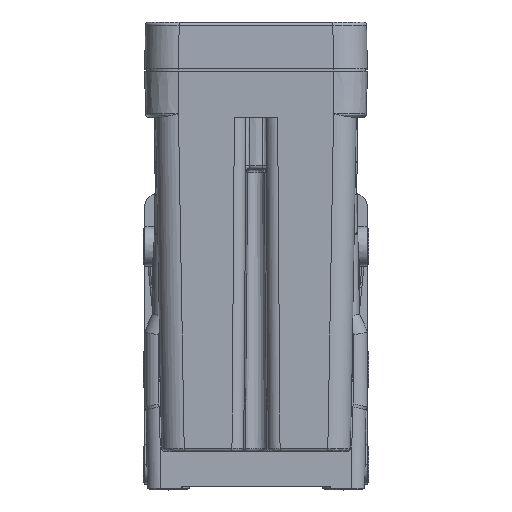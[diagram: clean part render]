
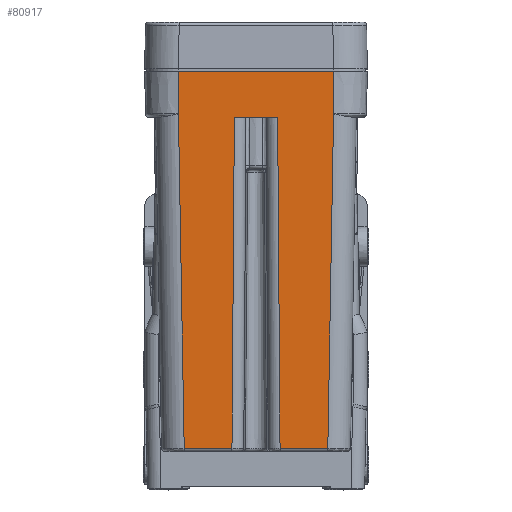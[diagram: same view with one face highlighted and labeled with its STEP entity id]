
A CAD part, top view. The second image highlights one B-rep face of the part: STEP entity #80917.
In plain terms, the highlighted planar face has unit normal (0, -0.018, 1).
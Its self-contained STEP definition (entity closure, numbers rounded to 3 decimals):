
#4391=DIRECTION('',(1.,0.,0.));
#4392=VECTOR('',#4391,6.418);
#4393=CARTESIAN_POINT('',(-3.209,37.4,30.881));
#4394=LINE('',#4393,#4392);
#4444=DIRECTION('',(-1.,0.,0.));
#4445=VECTOR('',#4444,7.08);
#4446=CARTESIAN_POINT('',(10.644,-11.659,30.025));
#4447=LINE('',#4446,#4445);
#4448=DIRECTION('',(-0.007,1.,0.017));
#4449=VECTOR('',#4448,49.067);
#4450=CARTESIAN_POINT('',(3.564,-11.659,30.025));
#4451=LINE('',#4450,#4449);
#4452=DIRECTION('',(-0.007,-1.,-0.017));
#4453=VECTOR('',#4452,49.067);
#4454=CARTESIAN_POINT('',(-3.209,37.4,30.881));
#4455=LINE('',#4454,#4453);
#4456=DIRECTION('',(-1.,0.,0.));
#4457=VECTOR('',#4456,7.08);
#4458=CARTESIAN_POINT('',(-3.564,-11.659,
30.025));
#4459=LINE('',#4458,#4457);
#4460=DIRECTION('',(0.001,1.,0.017));
#4461=VECTOR('',#4460,6.31);
#4462=CARTESIAN_POINT('',(-11.505,37.891,30.89));
#4463=LINE('',#4462,#4461);
#4469=DIRECTION('',(-0.001,1.,0.017));
#4470=VECTOR('',#4469,6.31);
#4471=CARTESIAN_POINT('',(11.505,37.891,30.89));
#4472=LINE('',#4471,#4470);
#4667=DIRECTION('',(0.017,1.,0.017));
#4668=VECTOR('',#4667,49.565);
#4669=CARTESIAN_POINT('',(10.644,-11.659,30.025));
#4670=LINE('',#4669,#4668);
#4696=CARTESIAN_POINT('',(10.644,-11.659,30.025));
#6344=DIRECTION('',(1.,0.,0.));
#6345=VECTOR('',#6344,23.);
#6346=CARTESIAN_POINT('',(-11.5,44.2,31.));
#6347=LINE('',#6346,#6345);
#6635=DIRECTION('',(0.017,-1.,-0.017));
#6636=VECTOR('',#6635,49.565);
#6637=CARTESIAN_POINT('',(-11.505,37.891,30.89));
#6638=LINE('',#6637,#6636);
#71154=CARTESIAN_POINT('',(-11.5,44.2,31.));
#71156=VERTEX_POINT('',#71154);
#71157=CARTESIAN_POINT('',(11.5,44.2,31.));
#71159=VERTEX_POINT('',#71157);
#71405=CARTESIAN_POINT('',(-11.5,37.891,30.89));
#71407=VERTEX_POINT('',#71405);
#71420=CARTESIAN_POINT('',(11.5,37.891,30.89));
#71422=VERTEX_POINT('',#71420);
#71467=CARTESIAN_POINT('',(-3.564,-11.659,
30.025));
#71468=CARTESIAN_POINT('',(-10.644,-11.659,
30.025));
#71469=VERTEX_POINT('',#71467);
#71470=VERTEX_POINT('',#71468);
#71476=VERTEX_POINT('',#4696);
#71479=CARTESIAN_POINT('',(3.564,-11.659,
30.025));
#71480=VERTEX_POINT('',#71479);
#71481=CARTESIAN_POINT('',(-3.209,37.4,30.881));
#71482=CARTESIAN_POINT('',(3.209,37.4,30.881));
#71483=VERTEX_POINT('',#71481);
#71484=VERTEX_POINT('',#71482);
#80894=CARTESIAN_POINT('',(-14.975,44.2,31.));
#80895=DIRECTION('',(0.,-0.017,1.));
#80896=DIRECTION('',(1.,0.,0.));
#80897=AXIS2_PLACEMENT_3D('',#80894,#80895,#80896);
#80898=PLANE('',#80897);
#80900=ORIENTED_EDGE('',*,*,#80899,.F.);
#80902=ORIENTED_EDGE('',*,*,#80901,.F.);
#80903=ORIENTED_EDGE('',*,*,#80562,.T.);
#80905=ORIENTED_EDGE('',*,*,#80904,.T.);
#80906=ORIENTED_EDGE('',*,*,#80797,.F.);
#80907=ORIENTED_EDGE('',*,*,#80813,.T.);
#80908=ORIENTED_EDGE('',*,*,#80885,.T.);
#80910=ORIENTED_EDGE('',*,*,#80909,.F.);
#80912=ORIENTED_EDGE('',*,*,#80911,.T.);
#80914=ORIENTED_EDGE('',*,*,#80913,.T.);
#80915=EDGE_LOOP('',(#80900,#80902,#80903,#80905,#80906,#80907,#80908,#80910,
#80912,#80914));
#80916=FACE_OUTER_BOUND('',#80915,.F.);
#80562=EDGE_CURVE('',#71476,#71480,#4447,.T.);
#80797=EDGE_CURVE('',#71483,#71484,#4394,.T.);
#80813=EDGE_CURVE('',#71483,#71469,#4455,.T.);
#80885=EDGE_CURVE('',#71469,#71470,#4459,.T.);
#80899=EDGE_CURVE('',#71422,#71159,#4472,.T.);
#80901=EDGE_CURVE('',#71476,#71422,#4670,.T.);
#80904=EDGE_CURVE('',#71480,#71484,#4451,.T.);
#80909=EDGE_CURVE('',#71407,#71470,#6638,.T.);
#80911=EDGE_CURVE('',#71407,#71156,#4463,.T.);
#80913=EDGE_CURVE('',#71156,#71159,#6347,.T.);
#80917=ADVANCED_FACE('',(#80916),#80898,.T.);
